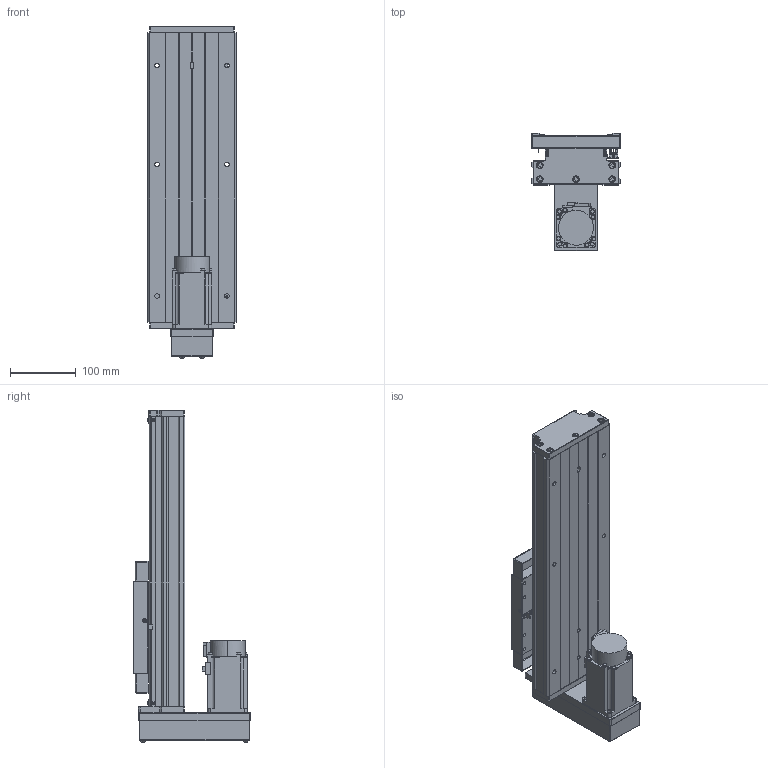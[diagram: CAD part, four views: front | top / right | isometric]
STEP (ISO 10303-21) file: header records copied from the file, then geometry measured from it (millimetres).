
FILE_DESCRIPTION (( 'STEP AP203' ), '1' );
FILE_NAME ('GTH14-200-BM-M40-C4.step', '2023-06-30T08:45:11', ( '微软用户' ), ( '微软中国' ), 'SwSTEP 2.0', 'SolidWorks 2020', '' );
FILE_SCHEMA (( 'CONFIG_CONTROL_DESIGN' ));
Length unit declared in the file: millimetre
Products named in the file (19): GTH14-200-BM-M40-C4; GBT70.1 M5℅16; GBT 70.2-M3¡Á5_M3¡Á6; CTHA60-017; す晦芛蹟隊 M3℅5; GTH14-001_200; EE_SX911P_R; HG-KN43J-S100; GTH14-002_GTH14-002; CTHA60-016; GBT 70.2-M4¡Á35_M4¡Á35; GTH14-004; GBT 70.1-M3℅5; GTH14-015-2_CTHA86-015-2; GTH14-005; GBT77-2000 M3×3; GTH14-033; GB1155-6X6; GTH14-031
Assembly tree (58 placements, depth 2):
  GTH14-200-BM-M40-C4
    GTH14-001_200
    GTH14-002_GTH14-002
    GTH14-004
    GTH14-005
    GB1155-6X6  x2
    GBT70.1 M5℅16  x10
    CTHA60-017  x3
    EE_SX911P_R  x3
    CTHA60-016  x2
    GBT 70.1-M3℅5  x6
    GBT77-2000 M3×3  x6
    GTH14-031
    GBT 70.2-M3¡Á5_M3¡Á6  x8
    す晦芛蹟隊 M3℅5  x6
    HG-KN43J-S100
    GBT 70.2-M4¡Á35_M4¡Á35  x4
    GTH14-015-2_CTHA86-015-2
    GTH14-033
Bounding box: 135 x 177.5 x 504.2 mm (x, y, z)
Volume: 3125909.4 mm3; surface area: 593383 mm2
Topology: 61 solids, 61 shells, 2433 faces, 5785 edges, 3562 vertices
Faces by surface type: plane 1303, cylinder 640, cone 314, torus 124, sphere 32, bspline 20
Entity records: 43542 total; most frequent: CARTESIAN_POINT 9757, DIRECTION 6369, ORIENTED_EDGE 6260, EDGE_CURVE 3130, AXIS2_PLACEMENT_3D 2166, VECTOR 2037, LINE 2037, VERTEX_POINT 1980
